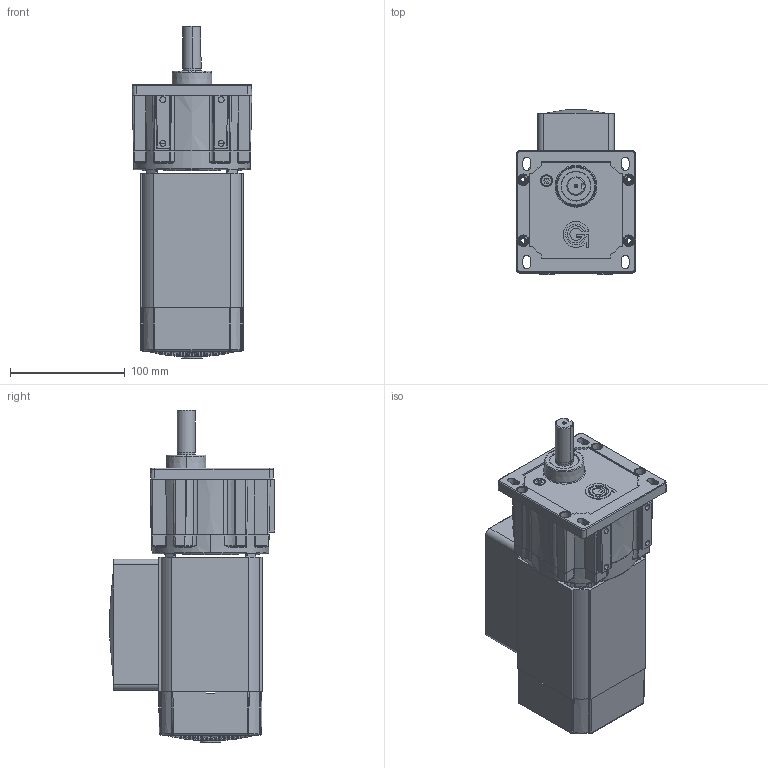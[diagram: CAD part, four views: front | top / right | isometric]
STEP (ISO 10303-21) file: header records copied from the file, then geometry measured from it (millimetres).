
FILE_DESCRIPTION (( 'STEP AP203' ), '1' );
FILE_NAME ('OUTLINE AC8040FC-PS2100.STEP', '2006-11-16T13:51:03', ( 'Groschopp' ), ( 'Groschopp' ), 'SwSTEP 2.0', 'SolidWorks 2007', '' );
FILE_SCHEMA (( 'CONFIG_CONTROL_DESIGN' ));
Length unit declared in the file: inch
Products named in the file (1): OUTLINE AC8040FC-PS2100
Bounding box: 104.29 x 144.68 x 289.43 mm (x, y, z)
Surface area: 207943.1 mm2 (no closed solid volume)
Topology: 0 solids, 25 shells, 1156 faces, 3652 edges, 2425 vertices
Faces by surface type: plane 643, cylinder 207, cone 107, torus 96, bspline 79, sphere 24
Entity records: 43693 total; most frequent: CARTESIAN_POINT 11474, DIRECTION 7202, ORIENTED_EDGE 6129, EDGE_CURVE 3614, AXIS2_PLACEMENT_3D 2858, VERTEX_POINT 2425, CIRCLE 1780, LINE 1486
